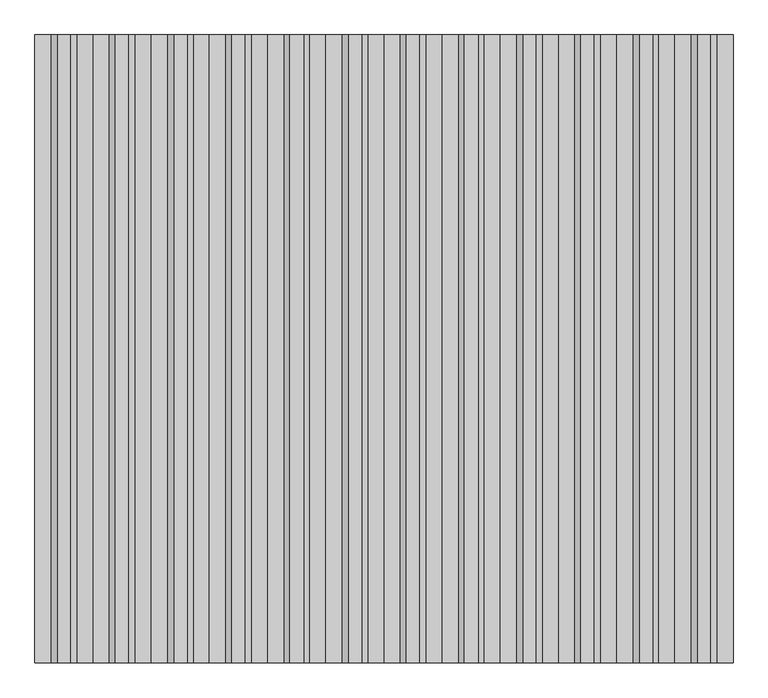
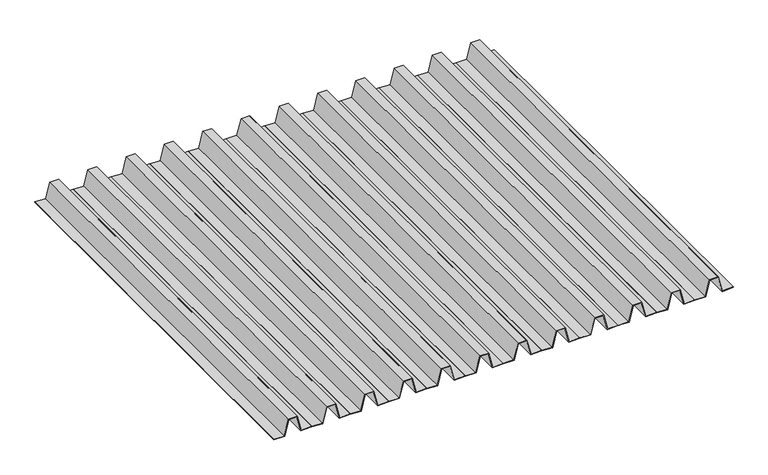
"""IFC4 building model written with IfcOpenShell, lengths in millimetres: proxy geometry, Renson_Amani_Fixed_Roof : Renson_Amani_Fixed_Roof."""

from ifc_helpers import new_model, si_unit, frame, origin, place, context, project, spatial, polyline, outline, extrude, source, transform, mapped, element, save


def generic_models_cd5bc85e(model_context):
    return source(origin(), model_context, "Body", "SweptSolid", [
        extrude(outline(polyline([(2416.1350727, 2750.0), (2413.1322147, 2750.0), (2410.0, 2821.7403502), (2516.0797384, 2848.1893092), (2516.0797384, 2901.8176159), (2410.0, 2928.2596498), (2413.1322147, 3000.0), (2416.1350727, 3000.0), (2413.1040587, 2930.577555), (2519.0797384, 2904.1614661), (2519.0797384, 2845.845459), (2413.1040587, 2819.422445), (2416.1350727, 2750.0)])), frame((0.0, 0.0, 0.0), z_axis=(0.0, 1.0, 0.0), x_axis=(0.0, 0.0, 1.0)), (0.0, 0.0, 1.0), 2700.0),
        extrude(outline(polyline([(2416.1350727, 2500.0), (2413.1322147, 2500.0), (2410.0, 2571.7403502), (2516.0797384, 2598.1893092), (2516.0797384, 2651.8176159), (2410.0, 2678.2596498), (2413.1322147, 2750.0), (2416.1350727, 2750.0), (2413.1040587, 2680.577555), (2519.0797384, 2654.1614661), (2519.0797384, 2595.845459), (2413.1040587, 2569.422445), (2416.1350727, 2500.0)])), frame((0.0, 0.0, 0.0), z_axis=(0.0, 1.0, 0.0), x_axis=(0.0, 0.0, 1.0)), (0.0, 0.0, 1.0), 2700.0),
        extrude(outline(polyline([(2416.1350727, 2250.0), (2413.1322147, 2250.0), (2410.0, 2321.7403502), (2516.0797384, 2348.1893092), (2516.0797384, 2401.8176159), (2410.0, 2428.2596498), (2413.1322147, 2500.0), (2416.1350727, 2500.0), (2413.1040587, 2430.577555), (2519.0797384, 2404.1614661), (2519.0797384, 2345.845459), (2413.1040587, 2319.422445), (2416.1350727, 2250.0)])), frame((0.0, 0.0, 0.0), z_axis=(0.0, 1.0, 0.0), x_axis=(0.0, 0.0, 1.0)), (0.0, 0.0, 1.0), 2700.0),
        extrude(outline(polyline([(2416.1350727, 2000.0), (2413.1322147, 2000.0), (2410.0, 2071.7403502), (2516.0797384, 2098.1893092), (2516.0797384, 2151.8176159), (2410.0, 2178.2596498), (2413.1322147, 2250.0), (2416.1350727, 2250.0), (2413.1040587, 2180.577555), (2519.0797384, 2154.1614661), (2519.0797384, 2095.845459), (2413.1040587, 2069.422445), (2416.1350727, 2000.0)])), frame((0.0, 0.0, 0.0), z_axis=(0.0, 1.0, 0.0), x_axis=(0.0, 0.0, 1.0)), (0.0, 0.0, 1.0), 2700.0),
        extrude(outline(polyline([(2416.1350727, 1750.0), (2413.1322147, 1750.0), (2410.0, 1821.7403502), (2516.0797384, 1848.1893092), (2516.0797384, 1901.8176159), (2410.0, 1928.2596498), (2413.1322147, 2000.0), (2416.1350727, 2000.0), (2413.1040587, 1930.577555), (2519.0797384, 1904.1614661), (2519.0797384, 1845.845459), (2413.1040587, 1819.422445), (2416.1350727, 1750.0)])), frame((0.0, 0.0, 0.0), z_axis=(0.0, 1.0, 0.0), x_axis=(0.0, 0.0, 1.0)), (0.0, 0.0, 1.0), 2700.0),
        extrude(outline(polyline([(2416.1350727, 1500.0), (2413.1322147, 1500.0), (2410.0, 1571.7403502), (2516.0797384, 1598.1893092), (2516.0797384, 1651.8176159), (2410.0, 1678.2596498), (2413.1322147, 1750.0), (2416.1350727, 1750.0), (2413.1040587, 1680.577555), (2519.0797384, 1654.1614661), (2519.0797384, 1595.845459), (2413.1040587, 1569.422445), (2416.1350727, 1500.0)])), frame((0.0, 0.0, 0.0), z_axis=(0.0, 1.0, 0.0), x_axis=(0.0, 0.0, 1.0)), (0.0, 0.0, 1.0), 2700.0),
        extrude(outline(polyline([(2416.1350727, 1250.0), (2413.1322147, 1250.0), (2410.0, 1321.7403502), (2516.0797384, 1348.1893092), (2516.0797384, 1401.8176159), (2410.0, 1428.2596498), (2413.1322147, 1500.0), (2416.1350727, 1500.0), (2413.1040587, 1430.577555), (2519.0797384, 1404.1614661), (2519.0797384, 1345.845459), (2413.1040587, 1319.422445), (2416.1350727, 1250.0)])), frame((0.0, 0.0, 0.0), z_axis=(0.0, 1.0, 0.0), x_axis=(0.0, 0.0, 1.0)), (0.0, 0.0, 1.0), 2700.0),
        extrude(outline(polyline([(2416.1350727, 1000.0), (2413.1322147, 1000.0), (2410.0, 1071.7403502), (2516.0797384, 1098.1893092), (2516.0797384, 1151.8176159), (2410.0, 1178.2596498), (2413.1322147, 1250.0), (2416.1350727, 1250.0), (2413.1040587, 1180.577555), (2519.0797384, 1154.1614661), (2519.0797384, 1095.845459), (2413.1040587, 1069.422445), (2416.1350727, 1000.0)])), frame((0.0, 0.0, 0.0), z_axis=(0.0, 1.0, 0.0), x_axis=(0.0, 0.0, 1.0)), (0.0, 0.0, 1.0), 2700.0),
        extrude(outline(polyline([(2416.1350727, 750.0), (2413.1322147, 750.0), (2410.0, 821.7403502), (2516.0797384, 848.1893092), (2516.0797384, 901.8176159), (2410.0, 928.2596498), (2413.1322147, 1000.0), (2416.1350727, 1000.0), (2413.1040587, 930.577555), (2519.0797384, 904.1614661), (2519.0797384, 845.845459), (2413.1040587, 819.422445), (2416.1350727, 750.0)])), frame((0.0, 0.0, 0.0), z_axis=(0.0, 1.0, 0.0), x_axis=(0.0, 0.0, 1.0)), (0.0, 0.0, 1.0), 2700.0),
        extrude(outline(polyline([(2416.1350727, 500.0), (2413.1322147, 500.0), (2410.0, 571.7403502), (2516.0797384, 598.1893092), (2516.0797384, 651.8176159), (2410.0, 678.2596498), (2413.1322147, 750.0), (2416.1350727, 750.0), (2413.1040587, 680.577555), (2519.0797384, 654.1614661), (2519.0797384, 595.845459), (2413.1040587, 569.422445), (2416.1350727, 500.0)])), frame((0.0, 0.0, 0.0), z_axis=(0.0, 1.0, 0.0), x_axis=(0.0, 0.0, 1.0)), (0.0, 0.0, 1.0), 2700.0),
        extrude(outline(polyline([(2416.1350727, 250.0), (2413.1322147, 250.0), (2410.0, 321.7403502), (2516.0797384, 348.1893092), (2516.0797384, 401.8176159), (2410.0, 428.2596498), (2413.1322147, 500.0), (2416.1350727, 500.0), (2413.1040587, 430.577555), (2519.0797384, 404.1614661), (2519.0797384, 345.845459), (2413.1040587, 319.422445), (2416.1350727, 250.0)])), frame((0.0, 0.0, 0.0), z_axis=(0.0, 1.0, 0.0), x_axis=(0.0, 0.0, 1.0)), (0.0, 0.0, 1.0), 2700.0),
        extrude(outline(polyline([(2416.1350727, 0.0), (2413.1322147, 0.0), (2410.0, 71.7403502), (2516.0797384, 98.1893092), (2516.0797384, 151.8176159), (2410.0, 178.2596498), (2413.1322147, 250.0), (2416.1350727, 250.0), (2413.1040587, 180.577555), (2519.0797384, 154.1614661), (2519.0797384, 95.845459), (2413.1040587, 69.422445), (2416.1350727, 0.0)])), frame((0.0, 0.0, 0.0), z_axis=(0.0, 1.0, 0.0), x_axis=(0.0, 0.0, 1.0)), (0.0, 0.0, 1.0), 2700.0),
    ])


if __name__ == "__main__":
    model = new_model("IFC4")
    model_context = context("Model", 3, world=origin())
    ifc_project = project(units=[si_unit("LENGTHUNIT", "METRE", prefix="MILLI")], contexts=[model_context])
    site = spatial("IfcSite", under=ifc_project)
    building = spatial("IfcBuilding", under=site)
    placement = place(None, origin())
    generic_models_shape = generic_models_cd5bc85e(model_context)
    element("IfcBuildingElementProxy", 1, Name="Renson_Amani_Fixed_Roof : Renson_Amani_Fixed_Roof", ObjectType="Renson_Amani_Fixed_Roof : Renson_Amani_Fixed_Roof", at=placement, inside=building, context=model_context, shape_type="MappedRepresentation", body=[
        mapped(generic_models_shape, transform((0.0, 0.0, 0.0), x_axis=(1.0, 0.0, 0.0), y_axis=(0.0, 1.0, 0.0), z_axis=(0.0, 0.0, 1.0))),
    ])
    save(model, "model.ifc")
